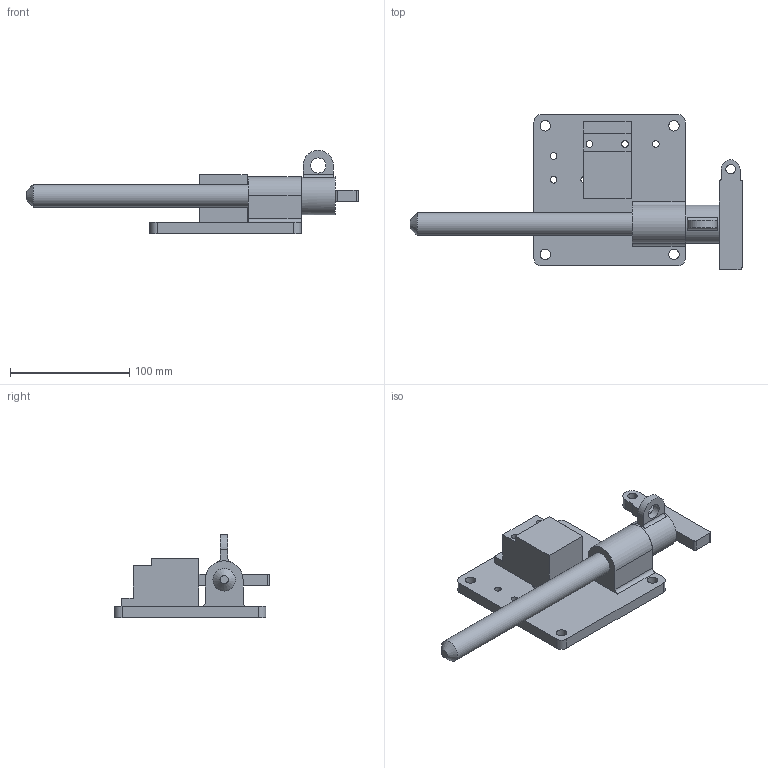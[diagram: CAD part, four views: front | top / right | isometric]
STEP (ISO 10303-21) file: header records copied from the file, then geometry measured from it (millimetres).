
FILE_DESCRIPTION(/* description */ (''),/* implementation_level */ '2;1');
FILE_NAME(/* name */ 'C:\Users\rcarver\Desktop\Tru-LOK pin\GM\With Switch\SP19Y225TR00200.stp',/* time_stamp */ '2016-06-24T13:28:12-04:00',/* author */ ('rcarver'),/* organization */ (''),/* preprocessor_version */ 'ST-DEVELOPER v16.5',/* originating_system */ 'Autodesk Inventor 2017',/* authorisation */ '');
FILE_SCHEMA (('AUTOMOTIVE_DESIGN { 1 0 10303 214 3 1 1 }'));
Length unit declared in the file: millimetre
Products named in the file (1): SP19Y225TR00200
Bounding box: 278.62 x 130.18 x 69.85 mm (x, y, z)
Volume: 376772.1 mm3; surface area: 78339.1 mm2
Topology: 3 solids, 3 shells, 69 faces, 192 edges, 131 vertices
Faces by surface type: plane 37, cylinder 31, cone 1
Full cylindrical faces by diameter (mm): 5.588 x2, 5.59 x6, 7.94 x1, 8.74 x4, 12.7 x1, 19 x1, 31.75 x1
Entity records: 2178 total; most frequent: DIRECTION 368, CARTESIAN_POINT 346, ORIENTED_EDGE 320, EDGE_CURVE 160, AXIS2_PLACEMENT_3D 138, EDGE_LOOP 116, VERTEX_POINT 116, LINE 92
